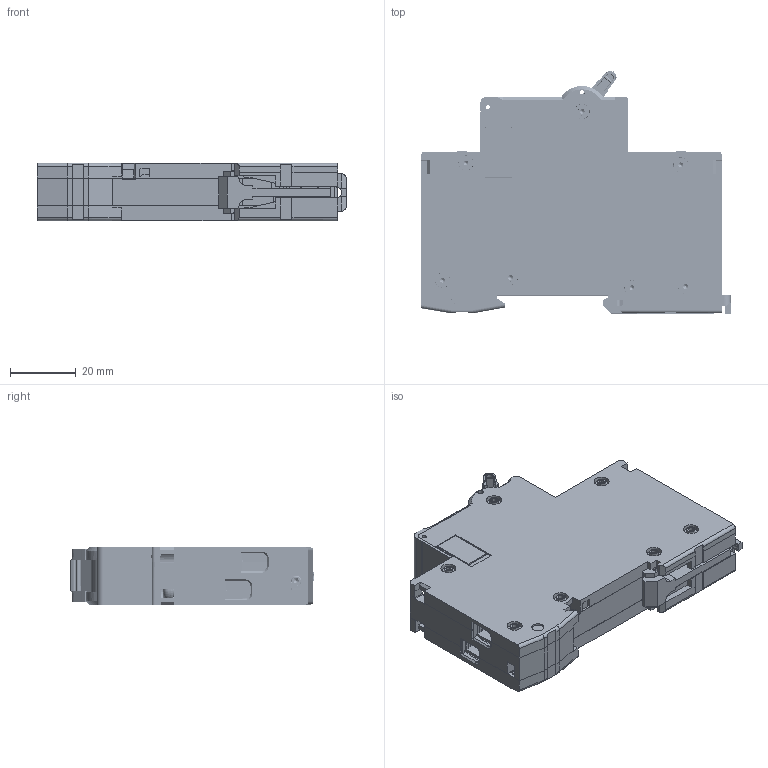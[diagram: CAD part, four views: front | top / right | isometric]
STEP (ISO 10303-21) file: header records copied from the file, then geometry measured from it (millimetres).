
FILE_DESCRIPTION (( 'STEP AP203' ), '1' );
FILE_NAME ('000.STEP', '2021-10-29T01:01:57', ( '' ), ( '' ), 'SwSTEP 2.0', 'SolidWorks 2018', '' );
FILE_SCHEMA (( 'CONFIG_CONTROL_DESIGN' ));
Products named in the file (1): 000
Bounding box: 94.38 x 74.11 x 17.5 mm (x, y, z)
Volume: 37791.2 mm3; surface area: 65484.8 mm2
Topology: 35 solids, 35 shells, 6066 faces, 16470 edges, 10462 vertices
Faces by surface type: plane 3929, cylinder 1354, cone 457, bspline 142, sphere 142, torus 42
Entity records: 204274 total; most frequent: CARTESIAN_POINT 55969, ORIENTED_EDGE 32602, DIRECTION 28356, EDGE_CURVE 16301, VECTOR 11392, LINE 11392, VERTEX_POINT 10455, AXIS2_PLACEMENT_3D 8482
